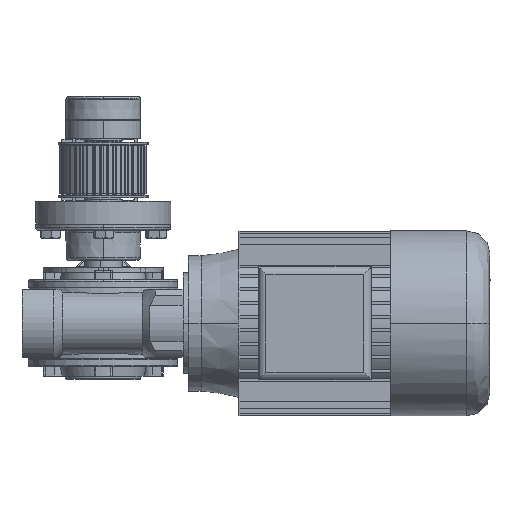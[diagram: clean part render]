
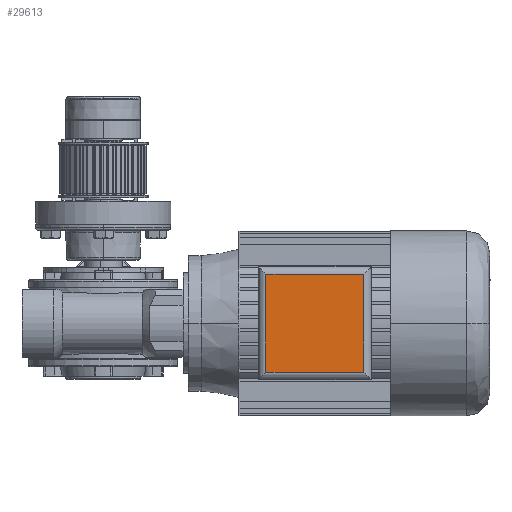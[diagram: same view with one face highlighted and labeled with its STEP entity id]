
A CAD part, left-side view. The second image highlights one B-rep face of the part: STEP entity #29613.
In plain terms, the highlighted planar face has unit normal (-1, 0, 0) as drawn and (0, 1, 0) by its records, which use the part's own axes.
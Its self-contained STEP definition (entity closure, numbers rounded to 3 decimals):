
#2352 = CARTESIAN_POINT ( 'NONE',  ( 32.5, 110., 50.1 ) ) ;
#2696 = EDGE_CURVE ( 'NONE', #4623, #3675, #67825, .T. ) ;
#3675 = VERTEX_POINT ( 'NONE', #43768 ) ;
#3950 = VERTEX_POINT ( 'NONE', #47934 ) ;
#4623 = VERTEX_POINT ( 'NONE', #53588 ) ;
#10932 = CARTESIAN_POINT ( 'NONE',  ( -32.5, 110., 120.1 ) ) ;
#11511 = PLANE ( 'NONE',  #68380 ) ;
#14938 = VECTOR ( 'NONE', #27955, 1000. ) ;
#17936 = CARTESIAN_POINT ( 'NONE',  ( 37.5, 110., 125.1 ) ) ;
#22406 = EDGE_CURVE ( 'NONE', #3950, #26222, #54354, .T. ) ;
#23490 = ORIENTED_EDGE ( 'NONE', *, *, #22406, .F. ) ;
#26222 = VERTEX_POINT ( 'NONE', #10932 ) ;
#27092 = VECTOR ( 'NONE', #80318, 1000. ) ;
#27865 = LINE ( 'NONE', #2352, #75151 ) ;
#27955 = DIRECTION ( 'NONE',  ( 0., 0., -1. ) ) ;
#29613 = ADVANCED_FACE ( 'NONE', ( #29899 ), #11511, .F. ) ;
#29899 = FACE_OUTER_BOUND ( 'NONE', #68069, .T. ) ;
#34205 = CARTESIAN_POINT ( 'NONE',  ( 37.5, 110., 55.1 ) ) ;
#35205 = CARTESIAN_POINT ( 'NONE',  ( 37.5, 110., 120.1 ) ) ;
#37089 = EDGE_CURVE ( 'NONE', #3675, #3950, #27865, .T. ) ;
#43768 = CARTESIAN_POINT ( 'NONE',  ( 32.5, 110., 55.1 ) ) ;
#46962 = DIRECTION ( 'NONE',  ( 1., 0., 0. ) ) ;
#47934 = CARTESIAN_POINT ( 'NONE',  ( 32.5, 110., 120.1 ) ) ;
#48404 = LINE ( 'NONE', #79912, #14938 ) ;
#50746 = DIRECTION ( 'NONE',  ( 1., 0., 0. ) ) ;
#53588 = CARTESIAN_POINT ( 'NONE',  ( -32.5, 110., 55.1 ) ) ;
#54354 = LINE ( 'NONE', #35205, #27092 ) ;
#55864 = DIRECTION ( 'NONE',  ( 0., -1., 0. ) ) ;
#58782 = ORIENTED_EDGE ( 'NONE', *, *, #2696, .F. ) ;
#60140 = ORIENTED_EDGE ( 'NONE', *, *, #74768, .F. ) ;
#65575 = ORIENTED_EDGE ( 'NONE', *, *, #37089, .F. ) ;
#67825 = LINE ( 'NONE', #34205, #75825 ) ;
#68069 = EDGE_LOOP ( 'NONE', ( #60140, #23490, #65575, #58782 ) ) ;
#68380 = AXIS2_PLACEMENT_3D ( 'NONE', #17936, #55864, #50746 ) ;
#74768 = EDGE_CURVE ( 'NONE', #26222, #4623, #48404, .T. ) ;
#75151 = VECTOR ( 'NONE', #81508, 1000. ) ;
#75825 = VECTOR ( 'NONE', #46962, 1000. ) ;
#79912 = CARTESIAN_POINT ( 'NONE',  ( -32.5, 110., 125.1 ) ) ;
#80318 = DIRECTION ( 'NONE',  ( -1., 0., 0. ) ) ;
#81508 = DIRECTION ( 'NONE',  ( 0., 0., 1. ) ) ;
